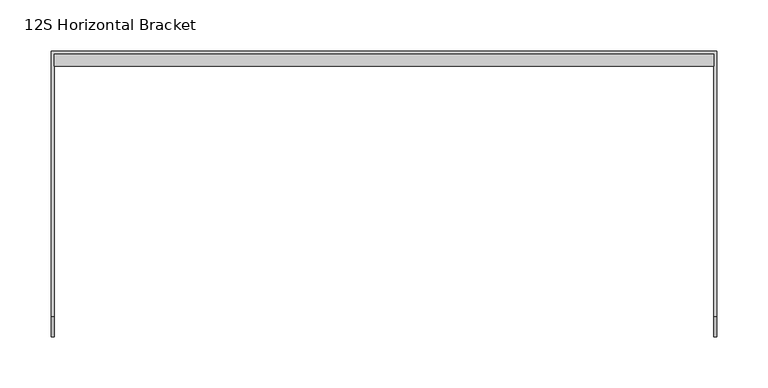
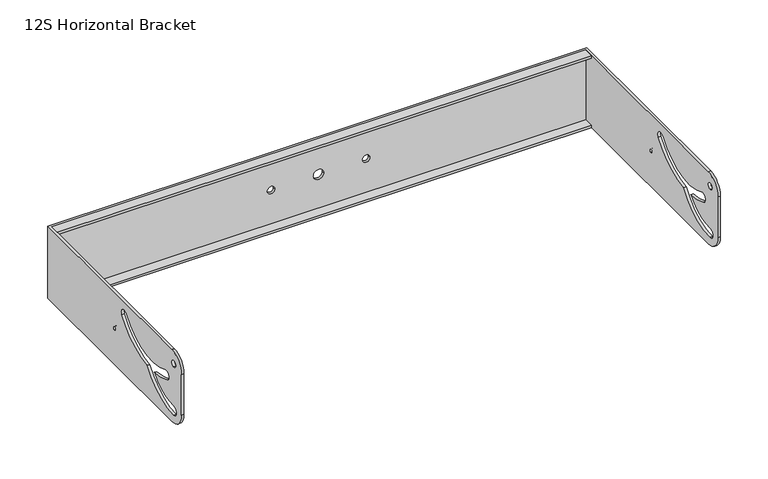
"""IFC4 building model written with IfcOpenShell, lengths in millimetres: proxy geometry, d&b xS-Series 12S Horizontal Bracket : 12S Horizontal Bracket."""

from ifc_helpers import new_model, si_unit, frame, origin, place, context, project, spatial, polyline, circle_curve, outline, extrude, source, transform, mapped, element, save
from ifc_brep_helpers import plane_surface, cylinder_surface, revolved_surface, advanced_brep


def proxy_12s_horizontal_bracket_10b1cf9d(model_context):
    return source(origin(), model_context, "Body", "SolidModel", [
        extrude(outline(polyline([(-323.0, 238.7393957), (-323.0, 250.7393957), (323.0, 250.7393957), (323.0, 238.7393957), (-323.0, 238.7393957)])), frame((0.0, 0.0, -47.8092214), z_axis=(0.0, 0.0, 1.0), x_axis=(1.0, 0.0, 0.0)), (0.0, 0.0, 1.0), 3.0),
        extrude(outline(polyline([(-323.0, 238.7393957), (-323.0, 250.7393957), (323.0, 250.7393957), (323.0, 238.7393957), (-323.0, 238.7393957)])), frame((0.0, 0.0, 41.1907786), z_axis=(0.0, 0.0, 1.0), x_axis=(1.0, 0.0, 0.0)), (0.0, 0.0, 1.0), 3.0),
        advanced_brep(
        [(-323.0, 250.7393957, 44.1907786), (323.0, 250.7393957, 44.1907786), (323.0, -6.2606043, 44.1907786), (326.0, -6.2606043, 44.1907786), (326.0, 253.7393957, 44.1907786), (-326.0, 253.7393957, 44.1907786), (-326.0, -6.2606043, 44.1907786), (-323.0, -6.2606043, 44.1907786), (-326.0, 253.7393957, -47.8092214), (326.0, 253.7393957, -47.8092214), (326.0, -6.2606043, -47.8092214), (323.0, -6.2606043, -47.8092214), (323.0, 250.7393957, -47.8092214), (-323.0, 250.7393957, -47.8092214), (-323.0, -6.2606043, -47.8092214), (-326.0, -6.2606043, -47.8092214), (-326.0, -26.2606043, 24.1907786), (-326.0, -26.2606043, -27.8092214), (-323.0, -26.2606043, -27.8092214), (-323.0, -26.2606043, 24.1907786), (-323.0, -10.2606043, 24.1907786), (-323.0, -10.2606043, 32.1907786), (-323.0, -10.2421645, -37.3091897), (-323.0, -10.2579371, -26.3092228), (-323.0, 30.8747294, -7.5770229), (-323.0, 3.0846587, -0.4251091), (-323.0, 7.7858712, 9.5196685), (-323.0, 89.3065225, 31.5901932), (-323.0, 98.226093, 25.1568165), (-323.0, 44.9152582, -7.1520493), (-323.0, 113.7393957, -3.8092214), (-323.0, 113.7393957, 0.1907786), (-6.25, 250.7393957, -1.8092214), (6.25, 250.7393957, -1.8092214), (-62.0, 250.7393957, -1.8092214), (-53.0, 250.7393957, -1.8092214), (62.0, 250.7393957, -1.8092214), (53.0, 250.7393957, -1.8092214), (323.0, -26.2606043, -27.8092214), (323.0, -26.2606043, 24.1907786), (323.0, -10.2606043, 32.1907786), (323.0, -10.2606043, 24.1907786), (323.0, -10.2579371, -26.3092228), (323.0, -10.2421645, -37.3091897), (323.0, 44.9152582, -7.1520493), (323.0, 98.2303878, 25.1538533), (323.0, 89.3065225, 31.5901932), (323.0, 7.7858712, 9.5196685), (323.0, 3.0846587, -0.4251091), (323.0, 30.8747294, -7.5770229), (323.0, 113.7393957, 0.1907786), (323.0, 113.7393957, -3.8092214), (326.0, -26.2606043, -27.8092214), (326.0, -26.2606043, 24.1907786), (326.0, -10.2606043, 24.1907786), (326.0, -10.2606043, 32.1907786), (326.0, -10.2421645, -37.3091897), (326.0, -10.2579371, -26.3092228), (326.0, 30.8747294, -7.5770229), (326.0, 3.0846587, -0.4251091), (326.0, 7.7858712, 9.5196685), (326.0, 89.3065225, 31.5901932), (326.0, 98.226093, 25.1568165), (326.0, 44.9152582, -7.1520493), (326.0, 113.7393957, -3.8092214), (326.0, 113.7393957, 0.1907786), (6.25, 253.7393957, -1.8092214), (-6.25, 253.7393957, -1.8092214), (-53.0, 253.7393957, -1.8092214), (-62.0, 253.7393957, -1.8092214), (53.0, 253.7393957, -1.8092214), (62.0, 253.7393957, -1.8092214), (-326.0, -10.2606043, 32.1907786), (-326.0, -10.2606043, 24.1907786), (-326.0, -10.2579371, -26.3092228), (-326.0, -10.2421645, -37.3091897), (-326.0, 44.9152582, -7.1520493), (-326.0, 98.2303878, 25.1538533), (-326.0, 89.3065225, 31.5901932), (-326.0, 7.7858712, 9.5196685), (-326.0, 3.0846587, -0.4251091), (-326.0, 30.8747294, -7.5770229), (-326.0, 113.7393957, 0.1907786), (-326.0, 113.7393957, -3.8092214)],
        [
            (0, 1),
            (1, 2),
            (2, 3),
            (3, 4),
            (4, 5),
            (5, 6),
            (6, 7),
            (7, 0),
            (8, 9),
            (9, 10),
            (10, 11),
            (11, 12),
            (12, 13),
            (13, 14),
            (14, 15),
            (15, 8),
            (16, 17),
            (17, 18),
            (18, 19),
            (19, 16),
            (13, 0),
            (7, 19, circle_curve(frame((-323.0, -6.2606043, 24.1907786), z_axis=(1.0, 0.0, 0.0), x_axis=(0.0, -1.0, 0.0)), 20.0)),
            (18, 14, circle_curve(frame((-323.0, -6.2606043, -27.8092214), z_axis=(1.0, 0.0, 0.0), x_axis=(0.0, -1.0, 0.0)), 20.0)),
            (20, 21, circle_curve(frame((-323.0, -10.2606043, 28.1907786), z_axis=(-1.0, 0.0, 0.0), x_axis=(0.0, 0.0, -1.0)), 4.0)),
            (21, 20, circle_curve(frame((-323.0, -10.2606043, 28.1907786), z_axis=(-1.0, 0.0, 0.0), x_axis=(0.0, 0.0, -1.0)), 4.0)),
            (22, 23, circle_curve(frame((-323.0, -10.2606043, -31.8092214), z_axis=(-1.0, 0.0, 0.0), x_axis=(0.0, 0.0, -1.0)), 5.4999992)),
            (23, 24, circle_curve(frame((-323.0, -10.2315229, 28.1589821), z_axis=(1.0, 0.0, 0.0), x_axis=(0.0, 0.0, -1.0)), 54.4682113)),
            (24, 25, circle_curve(frame((-323.0, 35.6029059, 68.3628341), z_axis=(-1.0, 0.0, 0.0), x_axis=(0.0, 0.0, -1.0)), 76.0869077)),
            (25, 26, circle_curve(frame((-323.0, 5.435265, 4.5472797), z_axis=(-1.0, 0.0, 0.0), x_axis=(0.0, 0.0, -1.0)), 5.5)),
            (26, 27, circle_curve(frame((-323.0, 35.6029059, 68.3628341), z_axis=(1.0, 0.0, 0.0), x_axis=(0.0, 0.0, -1.0)), 65.0869077)),
            (27, 28, circle_curve(frame((-323.0, 93.6990178, 28.2802105), z_axis=(-1.0, 0.0, 0.0), x_axis=(0.0, 0.0, -1.0)), 5.5)),
            (28, 29, circle_curve(frame((-323.0, 35.6029059, 68.3628341), z_axis=(-1.0, 0.0, 0.0), x_axis=(0.0, 0.0, -1.0)), 76.0869076)),
            (29, 22, circle_curve(frame((-323.0, -10.361585, 28.4292755), z_axis=(-1.0, 0.0, 0.0), x_axis=(0.0, 0.0, -1.0)), 65.7385737)),
            (30, 31, circle_curve(frame((-323.0, 113.7393957, -1.8092214), z_axis=(-1.0, 0.0, 0.0), x_axis=(0.0, 0.0, -1.0)), 2.0)),
            (31, 30, circle_curve(frame((-323.0, 113.7393957, -1.8092214), z_axis=(-1.0, 0.0, 0.0), x_axis=(0.0, 0.0, -1.0)), 2.0)),
            (12, 1),
            (32, 33, circle_curve(frame((0.0, 250.7393957, -1.8092214), z_axis=(0.0, 1.0, 0.0), x_axis=(1.0, 0.0, 0.0)), 6.25)),
            (33, 32, circle_curve(frame((0.0, 250.7393957, -1.8092214), z_axis=(0.0, 1.0, 0.0), x_axis=(1.0, 0.0, 0.0)), 6.25)),
            (34, 35, circle_curve(frame((-57.5, 250.7393957, -1.8092214), z_axis=(0.0, 1.0, 0.0), x_axis=(1.0, 0.0, 0.0)), 4.5)),
            (35, 34, circle_curve(frame((-57.5, 250.7393957, -1.8092214), z_axis=(0.0, 1.0, 0.0), x_axis=(1.0, 0.0, 0.0)), 4.5)),
            (36, 37, circle_curve(frame((57.5, 250.7393957, -1.8092214), z_axis=(0.0, 1.0, 0.0), x_axis=(-1.0, 0.0, 0.0)), 4.5)),
            (37, 36, circle_curve(frame((57.5, 250.7393957, -1.8092214), z_axis=(0.0, 1.0, 0.0), x_axis=(-1.0, 0.0, 0.0)), 4.5)),
            (11, 38, circle_curve(frame((323.0, -6.2606043, -27.8092214), z_axis=(-1.0, 0.0, 0.0), x_axis=(0.0, -1.0, 0.0)), 20.0)),
            (38, 39),
            (39, 2, circle_curve(frame((323.0, -6.2606043, 24.1907786), z_axis=(-1.0, 0.0, 0.0), x_axis=(0.0, -1.0, 0.0)), 20.0)),
            (40, 41, circle_curve(frame((323.0, -10.2606043, 28.1907786), z_axis=(1.0, 0.0, 0.0), x_axis=(0.0, 0.0, -1.0)), 4.0)),
            (41, 40, circle_curve(frame((323.0, -10.2606043, 28.1907786), z_axis=(1.0, 0.0, 0.0), x_axis=(0.0, 0.0, -1.0)), 4.0)),
            (42, 43, circle_curve(frame((323.0, -10.2606043, -31.8092214), z_axis=(1.0, 0.0, 0.0), x_axis=(0.0, 0.0, -1.0)), 5.4999992)),
            (43, 44, circle_curve(frame((323.0, -10.361585, 28.4292755), z_axis=(1.0, 0.0, 0.0), x_axis=(0.0, 0.0, -1.0)), 65.7385737)),
            (44, 45, circle_curve(frame((323.0, 35.6029059, 68.3628341), z_axis=(1.0, 0.0, 0.0), x_axis=(0.0, 0.0, -1.0)), 76.0869076)),
            (45, 46, circle_curve(frame((323.0, 93.6990178, 28.2802105), z_axis=(1.0, 0.0, 0.0), x_axis=(0.0, 0.0, -1.0)), 5.5)),
            (46, 47, circle_curve(frame((323.0, 35.6029059, 68.3628341), z_axis=(-1.0, 0.0, 0.0), x_axis=(0.0, 0.0, -1.0)), 65.0869077)),
            (47, 48, circle_curve(frame((323.0, 5.435265, 4.5472797), z_axis=(1.0, 0.0, 0.0), x_axis=(0.0, 0.0, -1.0)), 5.5)),
            (48, 49, circle_curve(frame((323.0, 35.6029059, 68.3628341), z_axis=(1.0, 0.0, 0.0), x_axis=(0.0, 0.0, -1.0)), 76.0869077)),
            (49, 42, circle_curve(frame((323.0, -10.2315229, 28.1589821), z_axis=(-1.0, 0.0, 0.0), x_axis=(0.0, 0.0, -1.0)), 54.4682113)),
            (50, 51, circle_curve(frame((323.0, 113.7393957, -1.8092214), z_axis=(1.0, 0.0, 0.0), x_axis=(0.0, 0.0, -1.0)), 2.0)),
            (51, 50, circle_curve(frame((323.0, 113.7393957, -1.8092214), z_axis=(1.0, 0.0, 0.0), x_axis=(0.0, 0.0, -1.0)), 2.0)),
            (38, 52),
            (52, 53),
            (53, 39),
            (9, 4),
            (3, 53, circle_curve(frame((326.0, -6.2606043, 24.1907786), z_axis=(1.0, 0.0, 0.0), x_axis=(0.0, -1.0, 0.0)), 20.0)),
            (52, 10, circle_curve(frame((326.0, -6.2606043, -27.8092214), z_axis=(1.0, 0.0, 0.0), x_axis=(0.0, -1.0, 0.0)), 20.0)),
            (54, 55, circle_curve(frame((326.0, -10.2606043, 28.1907786), z_axis=(-1.0, 0.0, 0.0), x_axis=(0.0, 0.0, -1.0)), 4.0)),
            (55, 54, circle_curve(frame((326.0, -10.2606043, 28.1907786), z_axis=(-1.0, 0.0, 0.0), x_axis=(0.0, 0.0, -1.0)), 4.0)),
            (56, 57, circle_curve(frame((326.0, -10.2606043, -31.8092214), z_axis=(-1.0, 0.0, 0.0), x_axis=(0.0, 0.0, -1.0)), 5.4999992)),
            (57, 58, circle_curve(frame((326.0, -10.2315229, 28.1589821), z_axis=(1.0, 0.0, 0.0), x_axis=(0.0, 0.0, -1.0)), 54.4682113)),
            (58, 59, circle_curve(frame((326.0, 35.6029059, 68.3628341), z_axis=(-1.0, 0.0, 0.0), x_axis=(0.0, 0.0, -1.0)), 76.0869077)),
            (59, 60, circle_curve(frame((326.0, 5.435265, 4.5472797), z_axis=(-1.0, 0.0, 0.0), x_axis=(0.0, 0.0, -1.0)), 5.5)),
            (60, 61, circle_curve(frame((326.0, 35.6029059, 68.3628341), z_axis=(1.0, 0.0, 0.0), x_axis=(0.0, 0.0, -1.0)), 65.0869077)),
            (61, 62, circle_curve(frame((326.0, 93.6990178, 28.2802105), z_axis=(-1.0, 0.0, 0.0), x_axis=(0.0, 0.0, -1.0)), 5.5)),
            (62, 63, circle_curve(frame((326.0, 35.6029059, 68.3628341), z_axis=(-1.0, 0.0, 0.0), x_axis=(0.0, 0.0, -1.0)), 76.0869076)),
            (63, 56, circle_curve(frame((326.0, -10.361585, 28.4292755), z_axis=(-1.0, 0.0, 0.0), x_axis=(0.0, 0.0, -1.0)), 65.7385737)),
            (64, 65, circle_curve(frame((326.0, 113.7393957, -1.8092214), z_axis=(-1.0, 0.0, 0.0), x_axis=(0.0, 0.0, -1.0)), 2.0)),
            (65, 64, circle_curve(frame((326.0, 113.7393957, -1.8092214), z_axis=(-1.0, 0.0, 0.0), x_axis=(0.0, 0.0, -1.0)), 2.0)),
            (8, 5),
            (66, 67, circle_curve(frame((0.0, 253.7393957, -1.8092214), z_axis=(0.0, -1.0, 0.0), x_axis=(1.0, 0.0, 0.0)), 6.25)),
            (67, 66, circle_curve(frame((0.0, 253.7393957, -1.8092214), z_axis=(0.0, -1.0, 0.0), x_axis=(1.0, 0.0, 0.0)), 6.25)),
            (68, 69, circle_curve(frame((-57.5, 253.7393957, -1.8092214), z_axis=(0.0, -1.0, 0.0), x_axis=(1.0, 0.0, 0.0)), 4.5)),
            (69, 68, circle_curve(frame((-57.5, 253.7393957, -1.8092214), z_axis=(0.0, -1.0, 0.0), x_axis=(1.0, 0.0, 0.0)), 4.5)),
            (70, 71, circle_curve(frame((57.5, 253.7393957, -1.8092214), z_axis=(0.0, -1.0, 0.0), x_axis=(-1.0, 0.0, 0.0)), 4.5)),
            (71, 70, circle_curve(frame((57.5, 253.7393957, -1.8092214), z_axis=(0.0, -1.0, 0.0), x_axis=(-1.0, 0.0, 0.0)), 4.5)),
            (15, 17, circle_curve(frame((-326.0, -6.2606043, -27.8092214), z_axis=(-1.0, 0.0, 0.0), x_axis=(0.0, -1.0, 0.0)), 20.0)),
            (16, 6, circle_curve(frame((-326.0, -6.2606043, 24.1907786), z_axis=(-1.0, 0.0, 0.0), x_axis=(0.0, -1.0, 0.0)), 20.0)),
            (72, 73, circle_curve(frame((-326.0, -10.2606043, 28.1907786), z_axis=(1.0, 0.0, 0.0), x_axis=(0.0, 0.0, -1.0)), 4.0)),
            (73, 72, circle_curve(frame((-326.0, -10.2606043, 28.1907786), z_axis=(1.0, 0.0, 0.0), x_axis=(0.0, 0.0, -1.0)), 4.0)),
            (74, 75, circle_curve(frame((-326.0, -10.2606043, -31.8092214), z_axis=(1.0, 0.0, 0.0), x_axis=(0.0, 0.0, -1.0)), 5.4999992)),
            (75, 76, circle_curve(frame((-326.0, -10.361585, 28.4292755), z_axis=(1.0, 0.0, 0.0), x_axis=(0.0, 0.0, -1.0)), 65.7385737)),
            (76, 77, circle_curve(frame((-326.0, 35.6029059, 68.3628341), z_axis=(1.0, 0.0, 0.0), x_axis=(0.0, 0.0, -1.0)), 76.0869076)),
            (77, 78, circle_curve(frame((-326.0, 93.6990178, 28.2802105), z_axis=(1.0, 0.0, 0.0), x_axis=(0.0, 0.0, -1.0)), 5.5)),
            (78, 79, circle_curve(frame((-326.0, 35.6029059, 68.3628341), z_axis=(-1.0, 0.0, 0.0), x_axis=(0.0, 0.0, -1.0)), 65.0869077)),
            (79, 80, circle_curve(frame((-326.0, 5.435265, 4.5472797), z_axis=(1.0, 0.0, 0.0), x_axis=(0.0, 0.0, -1.0)), 5.5)),
            (80, 81, circle_curve(frame((-326.0, 35.6029059, 68.3628341), z_axis=(1.0, 0.0, 0.0), x_axis=(0.0, 0.0, -1.0)), 76.0869077)),
            (81, 74, circle_curve(frame((-326.0, -10.2315229, 28.1589821), z_axis=(-1.0, 0.0, 0.0), x_axis=(0.0, 0.0, -1.0)), 54.4682113)),
            (82, 83, circle_curve(frame((-326.0, 113.7393957, -1.8092214), z_axis=(1.0, 0.0, 0.0), x_axis=(0.0, 0.0, -1.0)), 2.0)),
            (83, 82, circle_curve(frame((-326.0, 113.7393957, -1.8092214), z_axis=(1.0, 0.0, 0.0), x_axis=(0.0, 0.0, -1.0)), 2.0)),
            (32, 67),
            (66, 33),
            (34, 69),
            (68, 35),
            (36, 71),
            (70, 37),
            (40, 55),
            (54, 41),
            (72, 21),
            (20, 73),
            (42, 57),
            (56, 43),
            (74, 23),
            (22, 75),
            (63, 44),
            (29, 76),
            (49, 58),
            (81, 24),
            (62, 45),
            (28, 77),
            (61, 46),
            (27, 78),
            (60, 47),
            (26, 79),
            (59, 48),
            (25, 80),
            (50, 65),
            (64, 51),
            (82, 31),
            (30, 83),
        ],
        [
            plane_surface(frame((-297.0, -26.2606043, 44.1907786), z_axis=(0.0, 0.0, 1.0), x_axis=(1.0, 0.0, 0.0))),
            plane_surface(frame((-297.0, -26.2606043, -47.8092214), z_axis=(0.0, 0.0, -1.0), x_axis=(-1.0, 0.0, 0.0))),
            plane_surface(frame((-326.0, -26.2606043, 44.1907786), z_axis=(0.0, -1.0, 0.0), x_axis=(0.0, 0.0, -1.0))),
            plane_surface(frame((-323.0, -26.2606043, 44.1907786), z_axis=(1.0, 0.0, 0.0), x_axis=(0.0, 0.0, -1.0))),
            plane_surface(frame((-323.0, 250.7393957, 44.1907786), z_axis=(0.0, -1.0, 0.0), x_axis=(0.0, 0.0, -1.0))),
            plane_surface(frame((323.0, 250.7393957, 44.1907786), z_axis=(-1.0, 0.0, 0.0), x_axis=(0.0, 0.0, -1.0))),
            plane_surface(frame((323.0, -26.2606043, 44.1907786), z_axis=(0.0, -1.0, 0.0), x_axis=(0.0, 0.0, -1.0))),
            plane_surface(frame((326.0, -26.2606043, 44.1907786), z_axis=(1.0, 0.0, 0.0), x_axis=(0.0, 0.0, -1.0))),
            plane_surface(frame((326.0, 253.7393957, 44.1907786), z_axis=(0.0, 1.0, 0.0), x_axis=(0.0, 0.0, -1.0))),
            plane_surface(frame((-326.0, 253.7393957, 44.1907786), z_axis=(-1.0, 0.0, 0.0), x_axis=(0.0, 0.0, -1.0))),
            cylinder_surface(frame((-400.0, -6.2606043, 24.1907786), z_axis=(-1.0, 0.0, 0.0), x_axis=(0.0, -1.0, 0.0)), 20.0),
            cylinder_surface(frame((0.0, -6.2606043, -27.8092214), z_axis=(-1.0, 0.0, 0.0), x_axis=(0.0, -1.0, 0.0)), 20.0),
            revolved_surface(polyline([(6.25, 253.7393957, -1.8092214), (6.25, 250.7393957, -1.8092214)]), (0.0, 238.7393957, -1.8092214), (0.0, 1.0, 0.0)),
            revolved_surface(polyline([(-53.0, 253.7393957, -1.8092214), (-53.0, 250.7393957, -1.8092214)]), (-57.5, 253.7393957, -1.8092214), (0.0, 1.0, 0.0)),
            revolved_surface(polyline([(53.0, 253.7393957, -1.8092214), (53.0, 250.7393957, -1.8092214)]), (57.5, 253.7393957, -1.8092214), (0.0, 1.0, 0.0)),
            revolved_surface(polyline([(326.0, -10.2606043, 24.1907786), (323.0, -10.2606043, 24.1907786)]), (-400.0, -10.2606043, 28.1907786), (1.0, 0.0, 0.0)),
            revolved_surface(polyline([(-323.0, -10.2606043, 24.1907786), (-326.0, -10.2606043, 24.1907786)]), (-400.0, -10.2606043, 28.1907786), (1.0, 0.0, 0.0)),
            revolved_surface(polyline([(326.0, -10.2606043, -37.309220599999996), (323.0, -10.2606043, -37.309220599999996)]), (0.0, -10.2606043, -31.8092214), (1.0, 0.0, 0.0)),
            revolved_surface(polyline([(-323.0, -10.2606043, -37.309220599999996), (-326.0, -10.2606043, -37.309220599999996)]), (0.0, -10.2606043, -31.8092214), (1.0, 0.0, 0.0)),
            revolved_surface(polyline([(326.0, -10.361585, -37.3092982), (323.0, -10.361585, -37.3092982)]), (0.0, -10.361585, 28.4292755), (1.0, 0.0, 0.0)),
            revolved_surface(polyline([(-323.0, -10.361585, -37.3092982), (-326.0, -10.361585, -37.3092982)]), (0.0, -10.361585, 28.4292755), (1.0, 0.0, 0.0)),
            cylinder_surface(frame((0.0, -10.2315229, 28.1589821), z_axis=(-1.0, 0.0, 0.0), x_axis=(0.0, 0.0, -1.0)), 54.4682113),
            revolved_surface(polyline([(326.0, 35.6029059, -7.724073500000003), (323.0, 35.6029059, -7.724073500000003)]), (0.0, 35.6029059, 68.3628341), (1.0, 0.0, 0.0)),
            revolved_surface(polyline([(-323.0, 35.6029059, -7.724073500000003), (-326.0, 35.6029059, -7.724073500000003)]), (0.0, 35.6029059, 68.3628341), (1.0, 0.0, 0.0)),
            revolved_surface(polyline([(326.0, 93.6990178, 22.7802105), (323.0, 93.6990178, 22.7802105)]), (0.0, 93.6990178, 28.2802105), (1.0, 0.0, 0.0)),
            revolved_surface(polyline([(-323.0, 93.6990178, 22.7802105), (-326.0, 93.6990178, 22.7802105)]), (0.0, 93.6990178, 28.2802105), (1.0, 0.0, 0.0)),
            cylinder_surface(frame((0.0, 35.6029059, 68.3628341), z_axis=(-1.0, 0.0, 0.0), x_axis=(0.0, 0.0, -1.0)), 65.0869077),
            revolved_surface(polyline([(326.0, 5.435265, -0.9527203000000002), (323.0, 5.435265, -0.9527203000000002)]), (0.0, 5.435265, 4.5472797), (1.0, 0.0, 0.0)),
            revolved_surface(polyline([(-323.0, 5.435265, -0.9527203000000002), (-326.0, 5.435265, -0.9527203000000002)]), (0.0, 5.435265, 4.5472797), (1.0, 0.0, 0.0)),
            revolved_surface(polyline([(326.0, 35.6029059, -7.724073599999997), (323.0, 35.6029059, -7.724073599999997)]), (0.0, 35.6029059, 68.3628341), (1.0, 0.0, 0.0)),
            revolved_surface(polyline([(-323.0, 35.6029059, -7.724073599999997), (-326.0, 35.6029059, -7.724073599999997)]), (0.0, 35.6029059, 68.3628341), (1.0, 0.0, 0.0)),
            revolved_surface(polyline([(326.0, 113.7393957, -3.8092214), (323.0, 113.7393957, -3.8092214)]), (0.0, 113.7393957, -1.8092214), (1.0, 0.0, 0.0)),
            revolved_surface(polyline([(-323.0, 113.7393957, -3.8092214), (-326.0, 113.7393957, -3.8092214)]), (0.0, 113.7393957, -1.8092214), (1.0, 0.0, 0.0)),
        ],
        [
            (0, [[1, 2, 3, 4, 5, 6, 7, 8]]),
            (1, [[9, 10, 11, 12, 13, 14, 15, 16]]),
            (2, [[17, 18, 19, 20]]),
            (3, [[21, -8, 22, -19, 23, -14], [24, 25], [26, 27, 28, 29, 30, 31, 32, 33], [34, 35]]),
            (4, [[-1, -21, -13, 36], [37, 38], [39, 40], [41, 42]]),
            (5, [[-36, -12, 43, 44, 45, -2], [46, 47], [48, 49, 50, 51, 52, 53, 54, 55], [56, 57]]),
            (6, [[-44, 58, 59, 60]]),
            (7, [[61, -4, 62, -59, 63, -10], [64, 65], [66, 67, 68, 69, 70, 71, 72, 73], [74, 75]]),
            (8, [[-5, -61, -9, 76], [77, 78], [79, 80], [81, 82]]),
            (9, [[-76, -16, 83, -17, 84, -6], [85, 86], [87, 88, 89, 90, 91, 92, 93, 94], [95, 96]]),
            (10, [[-3, -45, -60, -62]]),
            (10, [[-7, -84, -20, -22]]),
            (11, [[-11, -63, -58, -43]]),
            (11, [[-15, -23, -18, -83]]),
            (12, [[97, -77, 98, -37]]),
            (12, [[-97, -38, -98, -78]]),
            (13, [[99, -79, 100, -39]]),
            (13, [[-99, -40, -100, -80]]),
            (14, [[101, -81, 102, -41]]),
            (14, [[-101, -42, -102, -82]]),
            (15, [[103, -64, 104, -46]]),
            (16, [[105, -24, 106, -85]]),
            (15, [[-103, -47, -104, -65]]),
            (16, [[-105, -86, -106, -25]]),
            (17, [[107, -66, 108, -48]]),
            (18, [[109, -26, 110, -87]]),
            (19, [[-108, -73, 111, -49]]),
            (20, [[-110, -33, 112, -88]]),
            (21, [[-107, -55, 113, -67]]),
            (21, [[-109, -94, 114, -27]]),
            (22, [[-111, -72, 115, -50]]),
            (23, [[-112, -32, 116, -89]]),
            (24, [[-115, -71, 117, -51]]),
            (25, [[-116, -31, 118, -90]]),
            (26, [[-117, -70, 119, -52]]),
            (26, [[-118, -30, 120, -91]]),
            (27, [[-119, -69, 121, -53]]),
            (28, [[-120, -29, 122, -92]]),
            (29, [[-113, -54, -121, -68]]),
            (30, [[-114, -93, -122, -28]]),
            (31, [[123, -74, 124, -56]]),
            (32, [[125, -34, 126, -95]]),
            (31, [[-123, -57, -124, -75]]),
            (32, [[-125, -96, -126, -35]]),
        ],
    ),
    ])


if __name__ == "__main__":
    model = new_model("IFC4")
    model_context = context("Model", 3, world=origin())
    ifc_project = project(units=[si_unit("LENGTHUNIT", "METRE", prefix="MILLI")], contexts=[model_context])
    site = spatial("IfcSite", under=ifc_project)
    building = spatial("IfcBuilding", under=site)
    placement = place(None, origin())
    proxy_12s_horizontal_bracket_shape = proxy_12s_horizontal_bracket_10b1cf9d(model_context)
    element("IfcBuildingElementProxy", 1, Name="d&b xS-Series 12S Horizontal Bracket : 12S Horizontal Bracket", ObjectType="d&b xS-Series 12S Horizontal Bracket : 12S Horizontal Bracket", at=placement, inside=building, context=model_context, shape_type="MappedRepresentation", body=[
        mapped(proxy_12s_horizontal_bracket_shape, transform((0.0, 0.0, 0.0), x_axis=(1.0, 0.0, 0.0), y_axis=(0.0, 1.0, 0.0), z_axis=(0.0, 0.0, 1.0))),
    ])
    save(model, "model.ifc")
